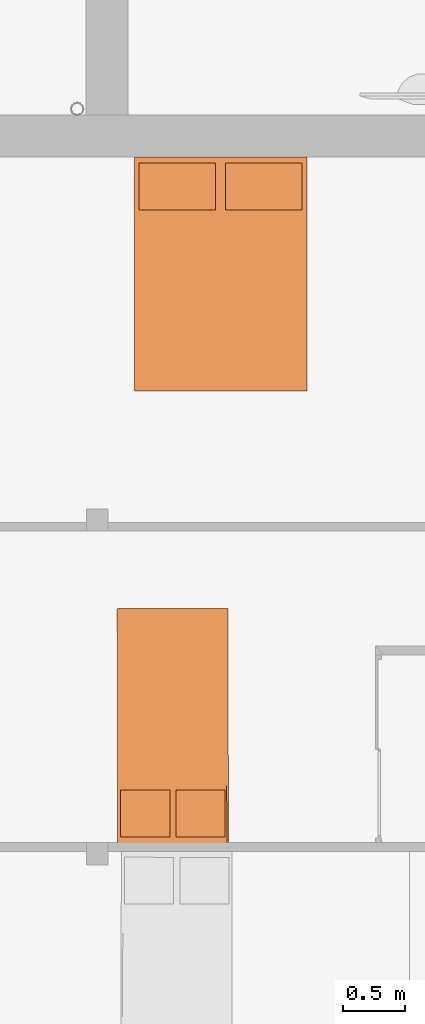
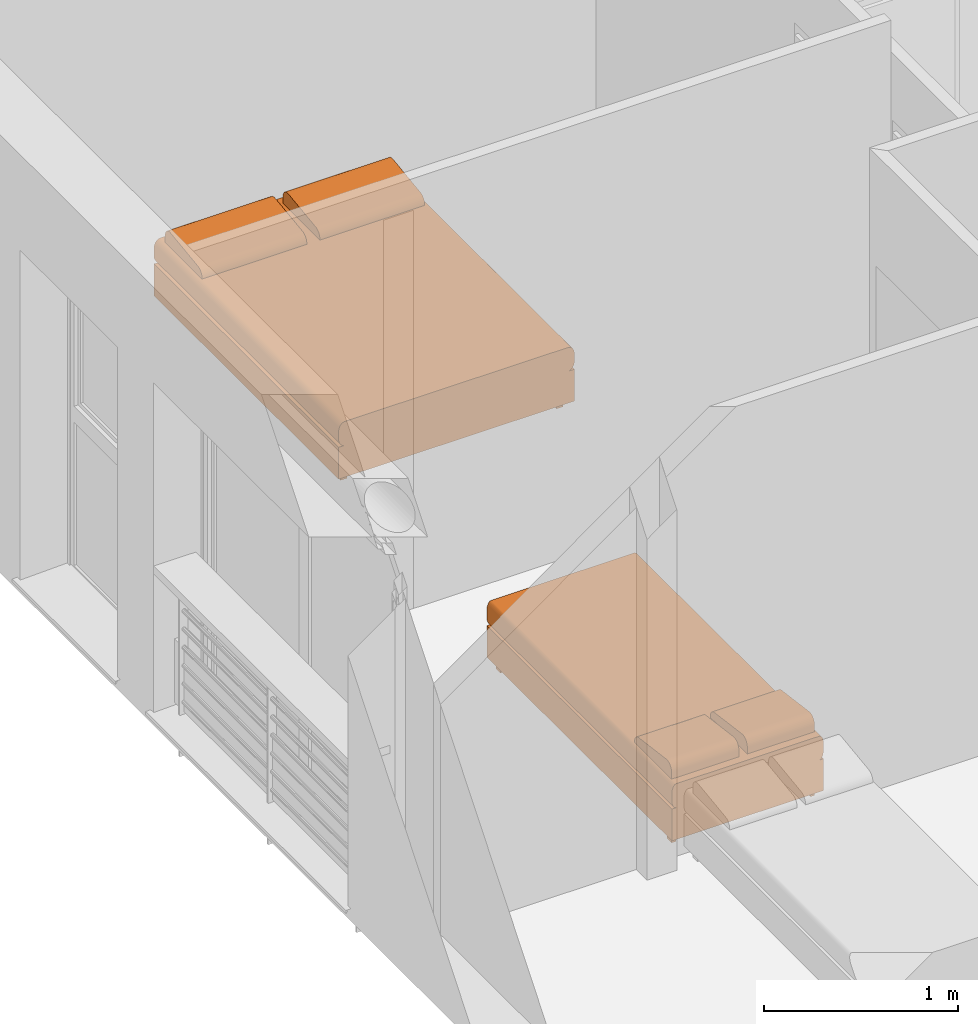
# One storey, part 141 of 164: 2 proxies.
"""IFC2X3 building model written with IfcOpenShell, lengths in millimetres."""

from ifc_helpers import new_model, entity, si_unit, converted_unit, derived_unit, money_unit, direction, frame, origin_with_axes, place, context, subcontext, project, spatial, open_shell, faceted_brep, surface_model, source, transform, mapped, type_object, element, save


model = new_model("IFC2X3")

# Units and contexts
model_context = context("Model", 3, precision=0.01, world=origin_with_axes(), true_north=direction((0.0, 1.0)))
body_context = subcontext(model_context, "Body", "Model", "MODEL_VIEW")
ifc_project = project(units=[si_unit("LENGTHUNIT", "METRE", prefix="MILLI"), si_unit("AREAUNIT", "SQUARE_METRE"), si_unit("VOLUMEUNIT", "CUBIC_METRE"), converted_unit("PLANEANGLEUNIT", "DEGREE", entity("IfcPlaneAngleMeasure", 0.0174532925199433), si_unit("PLANEANGLEUNIT", "RADIAN"), dimensions=[0, 0, 0, 0, 0, 0, 0]), money_unit("USD"), converted_unit("TIMEUNIT", "Year", entity("IfcTimeMeasure", 31557600.0), si_unit("TIMEUNIT", "SECOND"), dimensions=[0, 0, 1, 0, 0, 0, 0]), si_unit("MASSUNIT", "GRAM", prefix="KILO"), si_unit("THERMODYNAMICTEMPERATUREUNIT", "DEGREE_CELSIUS"), si_unit("LUMINOUSINTENSITYUNIT", "LUMEN"), si_unit("ENERGYUNIT", "JOULE", prefix="MEGA"), derived_unit("THERMALCONDUCTANCEUNIT", [(si_unit("POWERUNIT", "WATT"), 1), (si_unit("LENGTHUNIT", "METRE"), -1), (si_unit("THERMODYNAMICTEMPERATUREUNIT", "KELVIN"), -1)]), derived_unit("SPECIFICHEATCAPACITYUNIT", [(si_unit("ENERGYUNIT", "JOULE"), 1), (si_unit("MASSUNIT", "GRAM", prefix="KILO"), -1), (si_unit("THERMODYNAMICTEMPERATUREUNIT", "KELVIN"), -1)]), derived_unit("MASSDENSITYUNIT", [(si_unit("MASSUNIT", "GRAM", prefix="KILO"), 1), (si_unit("VOLUMEUNIT", "CUBIC_METRE"), -1)])], contexts=[model_context])

# Site, building, storey
site_placement = place(None, origin_with_axes())
site = spatial("IfcSite", under=ifc_project, at=site_placement, Name="Site", CompositionType="ELEMENT")
building_placement = place(site_placement, origin_with_axes())
building = spatial("IfcBuilding", under=site, at=building_placement, Name="Bâtiment", CompositionType="ELEMENT")
storey_placement = place(building_placement, frame((0.0, 0.0, 5750.0), z_axis=(0.0, 0.0, 1.0), x_axis=(1.0, 0.0, 0.0)))
storey = spatial("IfcBuildingStorey", under=building, at=storey_placement, Name="Etage1", CompositionType="ELEMENT", Elevation=5750.0)

# Proxies
building_element_proxy_type = type_object("IfcBuildingElementProxyType", PredefinedType="NOTDEFINED")
shared_shape_1 = source(origin_with_axes(), body_context, "Body", "SurfaceModel", [
    faceted_brep([(-622.2222222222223, -95.0, 0.0), (-661.1111111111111, -95.0, 0.0), (-661.1111111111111, -47.5, 0.0), (-622.2222222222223, -47.5, 0.0), (-622.2222222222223, -95.0, 50.0), (-661.1111111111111, -95.0, 50.0), (-661.1111111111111, -47.5, 50.0), (-622.2222222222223, -47.5, 50.0)], [[[0, 1, 2, 3]], [[1, 0, 4, 5]], [[2, 1, 5, 6]], [[3, 2, 6, 7]], [[0, 3, 7, 4]], [[5, 4, 7, 6]]]),
    faceted_brep([(-622.2222222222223, -1852.5, 0.0), (-661.1111111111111, -1852.5, 0.0), (-661.1111111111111, -1805.0, 0.0), (-622.2222222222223, -1805.0, 0.0), (-622.2222222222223, -1852.5, 50.0), (-661.1111111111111, -1852.5, 50.0), (-661.1111111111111, -1805.0, 50.0), (-622.2222222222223, -1805.0, 50.0)], [[[0, 1, 2, 3]], [[1, 0, 4, 5]], [[2, 1, 5, 6]], [[3, 2, 6, 7]], [[0, 3, 7, 4]], [[5, 4, 7, 6]]]),
    faceted_brep([(661.111111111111, -1852.5, 0.0), (622.2222222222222, -1852.5, 0.0), (622.2222222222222, -1805.0, 0.0), (661.111111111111, -1805.0, 0.0), (661.111111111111, -1852.5, 50.0), (622.2222222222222, -1852.5, 50.0), (622.2222222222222, -1805.0, 50.0), (661.111111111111, -1805.0, 50.0)], [[[0, 1, 2, 3]], [[1, 0, 4, 5]], [[2, 1, 5, 6]], [[3, 2, 6, 7]], [[0, 3, 7, 4]], [[5, 4, 7, 6]]]),
    faceted_brep([(661.111111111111, -94.99999999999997, 0.0), (622.2222222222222, -94.99999999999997, 0.0), (622.2222222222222, -47.49999999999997, 0.0), (661.111111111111, -47.49999999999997, 0.0), (661.111111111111, -94.99999999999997, 50.0), (622.2222222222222, -94.99999999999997, 50.0), (622.2222222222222, -47.49999999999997, 50.0), (661.111111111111, -47.49999999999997, 50.0)], [[[0, 1, 2, 3]], [[1, 0, 4, 5]], [[2, 1, 5, 6]], [[3, 2, 6, 7]], [[0, 3, 7, 4]], [[5, 4, 7, 6]]]),
    faceted_brep([(-700.0, 0.0, 50.0), (700.0, 0.0, 50.0), (700.0, -1900.0, 50.00000000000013), (-700.0, -1900.0, 50.00000000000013), (-700.0, 0.0, 250.0), (700.0, 0.0, 250.0), (700.0, -1900.0, 250.0000000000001), (-700.0, -1900.0, 250.0000000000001)], [[[0, 1, 2, 3]], [[0, 4, 5, 1]], [[1, 5, 6, 2]], [[3, 2, 6, 7]], [[4, 0, 3, 7]], [[5, 4, 7, 6]]]),
    surface_model("IfcShellBasedSurfaceModel", [(661.1111111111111, 0.0, 250.0), (667.8640957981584, 0.0, 250.7596123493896), (667.8640957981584, -1900.0, 250.7596123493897), (661.1111111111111, -1900.0, 250.0000000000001), (-661.1111111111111, 0.0, 250.0), (-667.8640957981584, 0.0, 250.7596123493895), (-674.4118944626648, 0.0, 253.0153689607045), (-680.5555555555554, 0.0, 256.698729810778), (-686.1084070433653, 0.0, 261.6977778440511), (-690.9017283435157, 0.0, 267.860619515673), (-694.7898768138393, 0.0, 275.0), (-697.654713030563, 0.0, 282.8989928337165), (-699.4091903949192, 0.0, 291.3175911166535), (-700.0, 0.0, 300.0000000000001), (-700.0000000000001, 0.0, 350.0), (-699.4091903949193, 0.0, 358.6824088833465), (-697.654713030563, 0.0, 367.1010071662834), (-694.7898768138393, 0.0, 375.0), (-690.9017283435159, 0.0, 382.139380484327), (-686.1084070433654, 0.0, 388.3022221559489), (-680.5555555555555, 0.0, 393.301270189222), (-674.4118944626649, 0.0, 396.9846310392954), (-667.8640957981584, 0.0, 399.2403876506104), (-661.1111111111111, 0.0, 400.0), (661.111111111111, 0.0, 400.0000000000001), (667.8640957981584, 0.0, 399.2403876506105), (674.4118944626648, 0.0, 396.9846310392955), (680.5555555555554, 0.0, 393.301270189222), (686.1084070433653, 0.0, 388.3022221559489), (690.9017283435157, 0.0, 382.139380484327), (694.7898768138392, 0.0, 375.0000000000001), (697.654713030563, 0.0, 367.1010071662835), (699.4091903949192, 0.0, 358.6824088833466), (700.0, 0.0, 350.0000000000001), (700.0, 0.0, 300.0000000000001), (699.4091903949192, 0.0, 291.3175911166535), (697.654713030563, 0.0, 282.8989928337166), (694.7898768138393, 0.0, 275.0), (690.9017283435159, 0.0, 267.8606195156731), (686.1084070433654, 0.0, 261.6977778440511), (680.5555555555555, 0.0, 256.698729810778), (674.4118944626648, 0.0, 253.0153689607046), (674.4118944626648, -1900.0, 253.0153689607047), (-661.1111111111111, -1900.0, 250.0000000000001), (680.5555555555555, -1900.0, 256.6987298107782), (686.1084070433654, -1900.0, 261.6977778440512), (690.9017283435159, -1900.0, 267.8606195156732), (694.7898768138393, -1900.0, 275.0000000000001), (697.654713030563, -1900.0, 282.8989928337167), (699.4091903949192, -1900.0, 291.3175911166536), (700.0, -1900.0, 300.0000000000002), (700.0, -1900.0, 350.0000000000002), (699.4091903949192, -1900.0, 358.6824088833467), (697.654713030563, -1900.0, 367.1010071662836), (694.7898768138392, -1900.0, 375.0000000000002), (690.9017283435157, -1900.0, 382.1393804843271), (686.1084070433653, -1900.0, 388.302222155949), (680.5555555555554, -1900.0, 393.3012701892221), (674.4118944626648, -1900.0, 396.9846310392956), (667.8640957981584, -1900.0, 399.2403876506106), (661.111111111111, -1900.0, 400.0000000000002), (-661.1111111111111, -1900.0, 400.0000000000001), (-667.8640957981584, -1900.0, 399.2403876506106), (-674.4118944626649, -1900.0, 396.9846310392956), (-680.5555555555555, -1900.0, 393.3012701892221), (-686.1084070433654, -1900.0, 388.302222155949), (-690.9017283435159, -1900.0, 382.1393804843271), (-694.7898768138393, -1900.0, 375.0000000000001), (-697.654713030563, -1900.0, 367.1010071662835), (-699.4091903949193, -1900.0, 358.6824088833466), (-700.0000000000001, -1900.0, 350.0000000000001), (-700.0, -1900.0, 300.0000000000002), (-699.4091903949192, -1900.0, 291.3175911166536), (-697.654713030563, -1900.0, 282.8989928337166), (-694.7898768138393, -1900.0, 275.0000000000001), (-690.9017283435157, -1900.0, 267.8606195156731), (-686.1084070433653, -1900.0, 261.6977778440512), (-680.5555555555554, -1900.0, 256.6987298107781), (-674.4118944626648, -1900.0, 253.0153689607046), (-667.8640957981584, -1900.0, 250.7596123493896)], [open_shell([[[0, 1, 2, 3]], [[4, 5, 6, 7, 8, 9, 10, 11, 12, 13, 14, 15, 16, 17, 18, 19, 20, 21, 22, 23, 24, 25, 26, 27, 28, 29, 30, 31, 32, 33, 34, 35, 36, 37, 38, 39, 40, 41, 1, 0]], [[1, 41, 42, 2]], [[43, 3, 2, 42, 44, 45, 46, 47, 48, 49, 50, 51, 52, 53, 54, 55, 56, 57, 58, 59, 60, 61, 62, 63, 64, 65, 66, 67, 68, 69, 70, 71, 72, 73, 74, 75, 76, 77, 78, 79]], [[5, 4, 43, 79]], [[6, 5, 79, 78]], [[7, 6, 78, 77]], [[8, 7, 77, 76]], [[9, 8, 76, 75]], [[10, 9, 75, 74]], [[11, 10, 74, 73]], [[12, 11, 73, 72]], [[13, 12, 72, 71]], [[14, 13, 71, 70]], [[15, 14, 70, 69]], [[16, 15, 69, 68]], [[17, 16, 68, 67]], [[18, 17, 67, 66]], [[19, 18, 66, 65]], [[20, 19, 65, 64]], [[21, 20, 64, 63]], [[22, 21, 63, 62]], [[23, 22, 62, 61]], [[24, 23, 61, 60]], [[25, 24, 60, 59]], [[26, 25, 59, 58]], [[27, 26, 58, 57]], [[28, 27, 57, 56]], [[29, 28, 56, 55]], [[30, 29, 55, 54]], [[31, 30, 54, 53]], [[32, 31, 53, 52]], [[33, 32, 52, 51]], [[34, 33, 51, 50]], [[35, 34, 50, 49]], [[36, 35, 49, 48]], [[37, 36, 48, 47]], [[38, 37, 47, 46]], [[39, 38, 46, 45]], [[40, 39, 45, 44]], [[41, 40, 44, 42]]])]),
    faceted_brep([(38.88888888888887, -47.49999999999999, 400.0), (38.88888888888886, -47.49999999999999, 443.4), (661.1111111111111, -47.50000000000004, 443.4000000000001), (661.1111111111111, -47.50000000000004, 400.0000000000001), (38.88888888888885, -427.5, 400.0), (38.88888888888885, -427.6960812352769, 408.695442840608), (38.88888888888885, -426.4675711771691, 417.2966661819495), (38.88888888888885, -423.8511300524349, 425.5469991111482), (38.88888888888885, -419.9248356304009, 433.2002417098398), (38.88888888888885, -414.8058532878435, 440.0280119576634), (38.88888888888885, -408.6469396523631, 445.826560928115), (38.88888888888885, -401.6318841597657, 450.4228529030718), (38.88888888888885, -393.9700245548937, 453.6797289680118), (38.88888888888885, -385.89, 455.5), (38.88888888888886, -100.89, 493.0000000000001), (38.88888888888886, -92.85488048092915, 493.3370808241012), (38.88888888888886, -84.88093291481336, 492.2422169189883), (38.88888888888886, -77.19681007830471, 489.7468034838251), (38.88888888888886, -70.02285403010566, 485.922396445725), (38.88888888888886, -63.56477780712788, 480.878660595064), (38.88888888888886, -58.00776660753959, 474.7602249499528), (38.88888888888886, -53.51116760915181, 467.7425355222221), (38.88888888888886, -50.20392069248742, 460.0268244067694), (38.88888888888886, -48.18086109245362, 451.834339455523), (661.1111111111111, -48.18086109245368, 451.8343394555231), (661.1111111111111, -50.20392069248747, 460.0268244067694), (661.1111111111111, -53.51116760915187, 467.7425355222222), (661.1111111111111, -58.00776660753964, 474.7602249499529), (661.1111111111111, -63.56477780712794, 480.878660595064), (661.1111111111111, -70.02285403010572, 485.922396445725), (661.1111111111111, -77.19681007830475, 489.7468034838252), (661.1111111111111, -84.88093291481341, 492.2422169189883), (661.1111111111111, -92.85488048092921, 493.3370808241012), (661.1111111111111, -100.8900000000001, 493.0000000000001), (661.1111111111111, -385.89, 455.5000000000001), (661.1111111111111, -393.9700245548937, 453.6797289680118), (661.1111111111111, -401.6318841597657, 450.4228529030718), (661.1111111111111, -408.6469396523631, 445.826560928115), (661.1111111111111, -414.8058532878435, 440.0280119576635), (661.1111111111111, -419.924835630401, 433.2002417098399), (661.1111111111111, -423.8511300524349, 425.5469991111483), (661.1111111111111, -426.4675711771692, 417.2966661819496), (661.1111111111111, -427.6960812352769, 408.6954428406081), (661.1111111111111, -427.5, 400.0000000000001)], [[[0, 1, 2, 3]], [[0, 4, 5, 6, 7, 8, 9, 10, 11, 12, 13, 14, 15, 16, 17, 18, 19, 20, 21, 22, 23, 1]], [[1, 23, 24, 2]], [[3, 2, 24, 25, 26, 27, 28, 29, 30, 31, 32, 33, 34, 35, 36, 37, 38, 39, 40, 41, 42, 43]], [[4, 0, 3, 43]], [[5, 4, 43, 42]], [[6, 5, 42, 41]], [[7, 6, 41, 40]], [[8, 7, 40, 39]], [[9, 8, 39, 38]], [[10, 9, 38, 37]], [[11, 10, 37, 36]], [[12, 11, 36, 35]], [[13, 12, 35, 34]], [[14, 13, 34, 33]], [[15, 14, 33, 32]], [[16, 15, 32, 31]], [[17, 16, 31, 30]], [[18, 17, 30, 29]], [[19, 18, 29, 28]], [[20, 19, 28, 27]], [[21, 20, 27, 26]], [[22, 21, 26, 25]], [[23, 22, 25, 24]]]),
    faceted_brep([(-661.1111111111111, -47.49999999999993, 399.9999999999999), (-661.1111111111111, -47.49999999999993, 443.4), (-38.88888888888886, -47.49999999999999, 443.4), (-38.88888888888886, -47.49999999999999, 400.0), (-661.1111111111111, -427.4999999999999, 399.9999999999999), (-661.1111111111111, -427.6960812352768, 408.6954428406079), (-661.1111111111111, -426.4675711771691, 417.2966661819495), (-661.1111111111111, -423.8511300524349, 425.5469991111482), (-661.1111111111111, -419.9248356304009, 433.2002417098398), (-661.1111111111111, -414.8058532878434, 440.0280119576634), (-661.1111111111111, -408.646939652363, 445.8265609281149), (-661.1111111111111, -401.6318841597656, 450.4228529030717), (-661.1111111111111, -393.9700245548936, 453.6797289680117), (-661.1111111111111, -385.8899999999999, 455.4999999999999), (-661.1111111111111, -100.89, 493.0), (-661.1111111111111, -92.8548804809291, 493.3370808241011), (-661.1111111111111, -84.8809329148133, 492.2422169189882), (-661.1111111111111, -77.19681007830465, 489.7468034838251), (-661.1111111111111, -70.0228540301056, 485.9223964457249), (-661.1111111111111, -63.56477780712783, 480.8786605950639), (-661.1111111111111, -58.00776660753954, 474.7602249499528), (-661.1111111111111, -53.51116760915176, 467.7425355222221), (-661.1111111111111, -50.20392069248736, 460.0268244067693), (-661.1111111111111, -48.18086109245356, 451.834339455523), (-38.88888888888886, -48.18086109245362, 451.834339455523), (-38.88888888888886, -50.20392069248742, 460.0268244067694), (-38.88888888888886, -53.51116760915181, 467.7425355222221), (-38.88888888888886, -58.00776660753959, 474.7602249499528), (-38.88888888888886, -63.56477780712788, 480.878660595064), (-38.88888888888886, -70.02285403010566, 485.922396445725), (-38.88888888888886, -77.19681007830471, 489.7468034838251), (-38.88888888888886, -84.88093291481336, 492.2422169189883), (-38.88888888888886, -92.85488048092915, 493.3370808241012), (-38.88888888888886, -100.89, 493.0000000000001), (-38.88888888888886, -385.8899999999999, 455.5), (-38.88888888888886, -393.9700245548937, 453.6797289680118), (-38.88888888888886, -401.6318841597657, 450.4228529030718), (-38.88888888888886, -408.6469396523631, 445.826560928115), (-38.88888888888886, -414.8058532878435, 440.0280119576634), (-38.88888888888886, -419.9248356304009, 433.2002417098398), (-38.88888888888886, -423.8511300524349, 425.5469991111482), (-38.88888888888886, -426.4675711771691, 417.2966661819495), (-38.88888888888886, -427.6960812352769, 408.695442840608), (-38.88888888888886, -427.4999999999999, 400.0)], [[[0, 1, 2, 3]], [[0, 4, 5, 6, 7, 8, 9, 10, 11, 12, 13, 14, 15, 16, 17, 18, 19, 20, 21, 22, 23, 1]], [[1, 23, 24, 2]], [[3, 2, 24, 25, 26, 27, 28, 29, 30, 31, 32, 33, 34, 35, 36, 37, 38, 39, 40, 41, 42, 43]], [[4, 0, 3, 43]], [[5, 4, 43, 42]], [[6, 5, 42, 41]], [[7, 6, 41, 40]], [[8, 7, 40, 39]], [[9, 8, 39, 38]], [[10, 9, 38, 37]], [[11, 10, 37, 36]], [[12, 11, 36, 35]], [[13, 12, 35, 34]], [[14, 13, 34, 33]], [[15, 14, 33, 32]], [[16, 15, 32, 31]], [[17, 16, 31, 30]], [[18, 17, 30, 29]], [[19, 18, 29, 28]], [[20, 19, 28, 27]], [[21, 20, 27, 26]], [[22, 21, 26, 25]], [[23, 22, 25, 24]]]),
])
proxy_1_placement = place(storey_placement, frame((2219225.881810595, -644356.4780863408, 0.0), z_axis=(0.0, 0.0, 1.0), x_axis=(0.9999999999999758, -2.201927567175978e-07, 0.0)))
element("IfcBuildingElementProxy", 1, at=proxy_1_placement, inside=storey, type_object=building_element_proxy_type, Name="Obj.-003", context=body_context, shape_type="MappedRepresentation", body=[
    mapped(shared_shape_1, transform((0.0, 0.0, 0.0))),
])
shared_shape_2 = source(origin_with_axes(), body_context, "Body", "SurfaceModel", [
    faceted_brep([(-400.0, -95.0, 0.0), (-425.0000000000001, -95.0, 0.0), (-425.0000000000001, -47.5, 0.0), (-400.0, -47.5, 0.0), (-400.0, -95.0, 50.0), (-425.0000000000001, -95.0, 50.0), (-425.0000000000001, -47.5, 50.0), (-400.0, -47.5, 50.0)], [[[0, 1, 2, 3]], [[1, 0, 4, 5]], [[2, 1, 5, 6]], [[3, 2, 6, 7]], [[0, 3, 7, 4]], [[5, 4, 7, 6]]]),
    faceted_brep([(-400.0, -1852.5, 0.0), (-425.0000000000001, -1852.5, 0.0), (-425.0000000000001, -1805.0, 0.0), (-400.0, -1805.0, 0.0), (-400.0, -1852.5, 50.0), (-425.0000000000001, -1852.5, 50.0), (-425.0000000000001, -1805.0, 50.0), (-400.0, -1805.0, 50.0)], [[[0, 1, 2, 3]], [[1, 0, 4, 5]], [[2, 1, 5, 6]], [[3, 2, 6, 7]], [[0, 3, 7, 4]], [[5, 4, 7, 6]]]),
    faceted_brep([(425.0000000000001, -1852.5, 0.0), (400.0, -1852.5, 0.0), (400.0, -1805.0, 0.0), (425.0000000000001, -1805.0, 0.0), (425.0000000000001, -1852.5, 50.0), (400.0, -1852.5, 50.0), (400.0, -1805.0, 50.0), (425.0000000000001, -1805.0, 50.0)], [[[0, 1, 2, 3]], [[1, 0, 4, 5]], [[2, 1, 5, 6]], [[3, 2, 6, 7]], [[0, 3, 7, 4]], [[5, 4, 7, 6]]]),
    faceted_brep([(425.0000000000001, -94.99999999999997, 0.0), (400.0, -94.99999999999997, 0.0), (400.0, -47.49999999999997, 0.0), (425.0000000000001, -47.49999999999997, 0.0), (425.0000000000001, -94.99999999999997, 50.0), (400.0, -94.99999999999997, 50.0), (400.0, -47.49999999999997, 50.0), (425.0000000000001, -47.49999999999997, 50.0)], [[[0, 1, 2, 3]], [[1, 0, 4, 5]], [[2, 1, 5, 6]], [[3, 2, 6, 7]], [[0, 3, 7, 4]], [[5, 4, 7, 6]]]),
    faceted_brep([(-450.0, 0.0, 50.0), (450.0, 0.0, 50.0), (450.0, -1900.0, 50.00000000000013), (-450.0, -1900.0, 50.00000000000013), (-450.0, 0.0, 250.0), (450.0, 0.0, 250.0), (450.0, -1900.0, 250.0000000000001), (-450.0, -1900.0, 250.0000000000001)], [[[0, 1, 2, 3]], [[0, 4, 5, 1]], [[1, 5, 6, 2]], [[3, 2, 6, 7]], [[4, 0, 3, 7]], [[5, 4, 7, 6]]]),
    surface_model("IfcShellBasedSurfaceModel", [(425.0000000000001, 0.0, 250.0), (429.3412044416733, 0.0, 250.7596123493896), (429.3412044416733, -1900.0, 250.7596123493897), (425.0000000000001, -1900.0, 250.0000000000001), (-425.0000000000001, 0.0, 250.0), (-429.3412044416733, 0.0, 250.7596123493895), (-433.5505035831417, 0.0, 253.0153689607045), (-437.5, 0.0, 256.698729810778), (-441.0696902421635, 0.0, 261.6977778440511), (-444.1511110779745, 0.0, 267.860619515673), (-446.650635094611, 0.0, 275.0), (-448.4923155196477, 0.0, 282.8989928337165), (-449.6201938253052, 0.0, 291.3175911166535), (-450.0, 0.0, 300.0000000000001), (-450.0000000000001, 0.0, 350.0), (-449.6201938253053, 0.0, 358.6824088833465), (-448.4923155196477, 0.0, 367.1010071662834), (-446.650635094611, 0.0, 375.0), (-444.1511110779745, 0.0, 382.139380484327), (-441.0696902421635, 0.0, 388.3022221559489), (-437.5000000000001, 0.0, 393.301270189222), (-433.5505035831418, 0.0, 396.9846310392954), (-429.3412044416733, 0.0, 399.2403876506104), (-425.0000000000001, 0.0, 400.0), (425.0, 0.0, 400.0000000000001), (429.3412044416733, 0.0, 399.2403876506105), (433.5505035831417, 0.0, 396.9846310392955), (437.5, 0.0, 393.301270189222), (441.0696902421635, 0.0, 388.3022221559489), (444.1511110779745, 0.0, 382.139380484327), (446.6506350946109, 0.0, 375.0000000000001), (448.4923155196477, 0.0, 367.1010071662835), (449.6201938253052, 0.0, 358.6824088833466), (450.0, 0.0, 350.0000000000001), (450.0, 0.0, 300.0000000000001), (449.6201938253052, 0.0, 291.3175911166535), (448.4923155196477, 0.0, 282.8989928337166), (446.650635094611, 0.0, 275.0), (444.1511110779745, 0.0, 267.8606195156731), (441.0696902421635, 0.0, 261.6977778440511), (437.5000000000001, 0.0, 256.698729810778), (433.5505035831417, 0.0, 253.0153689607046), (433.5505035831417, -1900.0, 253.0153689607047), (-425.0000000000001, -1900.0, 250.0000000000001), (437.5000000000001, -1900.0, 256.6987298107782), (441.0696902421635, -1900.0, 261.6977778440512), (444.1511110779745, -1900.0, 267.8606195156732), (446.650635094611, -1900.0, 275.0000000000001), (448.4923155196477, -1900.0, 282.8989928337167), (449.6201938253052, -1900.0, 291.3175911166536), (450.0, -1900.0, 300.0000000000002), (450.0, -1900.0, 350.0000000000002), (449.6201938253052, -1900.0, 358.6824088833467), (448.4923155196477, -1900.0, 367.1010071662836), (446.6506350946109, -1900.0, 375.0000000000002), (444.1511110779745, -1900.0, 382.1393804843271), (441.0696902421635, -1900.0, 388.302222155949), (437.5, -1900.0, 393.3012701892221), (433.5505035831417, -1900.0, 396.9846310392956), (429.3412044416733, -1900.0, 399.2403876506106), (425.0, -1900.0, 400.0000000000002), (-425.0000000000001, -1900.0, 400.0000000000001), (-429.3412044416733, -1900.0, 399.2403876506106), (-433.5505035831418, -1900.0, 396.9846310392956), (-437.5000000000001, -1900.0, 393.3012701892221), (-441.0696902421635, -1900.0, 388.302222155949), (-444.1511110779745, -1900.0, 382.1393804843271), (-446.650635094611, -1900.0, 375.0000000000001), (-448.4923155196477, -1900.0, 367.1010071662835), (-449.6201938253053, -1900.0, 358.6824088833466), (-450.0000000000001, -1900.0, 350.0000000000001), (-450.0, -1900.0, 300.0000000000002), (-449.6201938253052, -1900.0, 291.3175911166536), (-448.4923155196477, -1900.0, 282.8989928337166), (-446.650635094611, -1900.0, 275.0000000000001), (-444.1511110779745, -1900.0, 267.8606195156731), (-441.0696902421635, -1900.0, 261.6977778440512), (-437.5, -1900.0, 256.6987298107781), (-433.5505035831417, -1900.0, 253.0153689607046), (-429.3412044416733, -1900.0, 250.7596123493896)], [open_shell([[[0, 1, 2, 3]], [[4, 5, 6, 7, 8, 9, 10, 11, 12, 13, 14, 15, 16, 17, 18, 19, 20, 21, 22, 23, 24, 25, 26, 27, 28, 29, 30, 31, 32, 33, 34, 35, 36, 37, 38, 39, 40, 41, 1, 0]], [[1, 41, 42, 2]], [[43, 3, 2, 42, 44, 45, 46, 47, 48, 49, 50, 51, 52, 53, 54, 55, 56, 57, 58, 59, 60, 61, 62, 63, 64, 65, 66, 67, 68, 69, 70, 71, 72, 73, 74, 75, 76, 77, 78, 79]], [[5, 4, 43, 79]], [[6, 5, 79, 78]], [[7, 6, 78, 77]], [[8, 7, 77, 76]], [[9, 8, 76, 75]], [[10, 9, 75, 74]], [[11, 10, 74, 73]], [[12, 11, 73, 72]], [[13, 12, 72, 71]], [[14, 13, 71, 70]], [[15, 14, 70, 69]], [[16, 15, 69, 68]], [[17, 16, 68, 67]], [[18, 17, 67, 66]], [[19, 18, 66, 65]], [[20, 19, 65, 64]], [[21, 20, 64, 63]], [[22, 21, 63, 62]], [[23, 22, 62, 61]], [[24, 23, 61, 60]], [[25, 24, 60, 59]], [[26, 25, 59, 58]], [[27, 26, 58, 57]], [[28, 27, 57, 56]], [[29, 28, 56, 55]], [[30, 29, 55, 54]], [[31, 30, 54, 53]], [[32, 31, 53, 52]], [[33, 32, 52, 51]], [[34, 33, 51, 50]], [[35, 34, 50, 49]], [[36, 35, 49, 48]], [[37, 36, 48, 47]], [[38, 37, 47, 46]], [[39, 38, 46, 45]], [[40, 39, 45, 44]], [[41, 40, 44, 42]]])]),
    faceted_brep([(24.99999999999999, -47.49999999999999, 400.0), (24.99999999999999, -47.49999999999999, 443.4), (425.0, -47.50000000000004, 443.4000000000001), (425.0, -47.50000000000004, 400.0000000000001), (24.99999999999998, -427.5, 400.0), (24.99999999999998, -427.6960812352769, 408.695442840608), (24.99999999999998, -426.4675711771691, 417.2966661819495), (24.99999999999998, -423.8511300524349, 425.5469991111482), (24.99999999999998, -419.9248356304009, 433.2002417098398), (24.99999999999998, -414.8058532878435, 440.0280119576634), (24.99999999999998, -408.6469396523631, 445.826560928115), (24.99999999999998, -401.6318841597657, 450.4228529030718), (24.99999999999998, -393.9700245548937, 453.6797289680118), (24.99999999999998, -385.89, 455.5), (24.99999999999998, -100.89, 493.0000000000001), (24.99999999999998, -92.85488048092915, 493.3370808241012), (24.99999999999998, -84.88093291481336, 492.2422169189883), (24.99999999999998, -77.19681007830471, 489.7468034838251), (24.99999999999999, -70.02285403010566, 485.922396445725), (24.99999999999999, -63.56477780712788, 480.878660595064), (24.99999999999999, -58.00776660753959, 474.7602249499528), (24.99999999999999, -53.51116760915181, 467.7425355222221), (24.99999999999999, -50.20392069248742, 460.0268244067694), (24.99999999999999, -48.18086109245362, 451.834339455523), (425.0, -48.18086109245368, 451.8343394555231), (425.0, -50.20392069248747, 460.0268244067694), (425.0, -53.51116760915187, 467.7425355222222), (425.0, -58.00776660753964, 474.7602249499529), (425.0, -63.56477780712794, 480.878660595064), (425.0, -70.02285403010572, 485.922396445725), (425.0, -77.19681007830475, 489.7468034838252), (425.0, -84.88093291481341, 492.2422169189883), (425.0, -92.85488048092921, 493.3370808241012), (425.0, -100.8900000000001, 493.0000000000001), (425.0, -385.89, 455.5000000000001), (425.0, -393.9700245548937, 453.6797289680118), (425.0, -401.6318841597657, 450.4228529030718), (425.0, -408.6469396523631, 445.826560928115), (425.0, -414.8058532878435, 440.0280119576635), (425.0, -419.924835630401, 433.2002417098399), (425.0, -423.8511300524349, 425.5469991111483), (425.0, -426.4675711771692, 417.2966661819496), (425.0, -427.6960812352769, 408.6954428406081), (425.0, -427.5, 400.0000000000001)], [[[0, 1, 2, 3]], [[0, 4, 5, 6, 7, 8, 9, 10, 11, 12, 13, 14, 15, 16, 17, 18, 19, 20, 21, 22, 23, 1]], [[1, 23, 24, 2]], [[3, 2, 24, 25, 26, 27, 28, 29, 30, 31, 32, 33, 34, 35, 36, 37, 38, 39, 40, 41, 42, 43]], [[4, 0, 3, 43]], [[5, 4, 43, 42]], [[6, 5, 42, 41]], [[7, 6, 41, 40]], [[8, 7, 40, 39]], [[9, 8, 39, 38]], [[10, 9, 38, 37]], [[11, 10, 37, 36]], [[12, 11, 36, 35]], [[13, 12, 35, 34]], [[14, 13, 34, 33]], [[15, 14, 33, 32]], [[16, 15, 32, 31]], [[17, 16, 31, 30]], [[18, 17, 30, 29]], [[19, 18, 29, 28]], [[20, 19, 28, 27]], [[21, 20, 27, 26]], [[22, 21, 26, 25]], [[23, 22, 25, 24]]]),
    faceted_brep([(-425.0000000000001, -47.49999999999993, 399.9999999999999), (-425.0000000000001, -47.49999999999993, 443.4), (-25.00000000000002, -47.49999999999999, 443.4), (-25.00000000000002, -47.49999999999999, 400.0), (-425.0000000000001, -427.4999999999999, 399.9999999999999), (-425.0000000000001, -427.6960812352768, 408.6954428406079), (-425.0000000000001, -426.4675711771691, 417.2966661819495), (-425.0000000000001, -423.8511300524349, 425.5469991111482), (-425.0000000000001, -419.9248356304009, 433.2002417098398), (-425.0000000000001, -414.8058532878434, 440.0280119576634), (-425.0000000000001, -408.646939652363, 445.8265609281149), (-425.0000000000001, -401.6318841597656, 450.4228529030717), (-425.0000000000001, -393.9700245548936, 453.6797289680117), (-425.0000000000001, -385.8899999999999, 455.4999999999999), (-425.0000000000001, -100.89, 493.0), (-425.0000000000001, -92.8548804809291, 493.3370808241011), (-425.0000000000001, -84.8809329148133, 492.2422169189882), (-425.0000000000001, -77.19681007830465, 489.7468034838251), (-425.0000000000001, -70.0228540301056, 485.9223964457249), (-425.0000000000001, -63.56477780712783, 480.8786605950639), (-425.0000000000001, -58.00776660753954, 474.7602249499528), (-425.0000000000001, -53.51116760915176, 467.7425355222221), (-425.0000000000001, -50.20392069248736, 460.0268244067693), (-425.0000000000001, -48.18086109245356, 451.834339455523), (-25.00000000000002, -48.18086109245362, 451.834339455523), (-25.00000000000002, -50.20392069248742, 460.0268244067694), (-25.00000000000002, -53.51116760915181, 467.7425355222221), (-25.00000000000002, -58.00776660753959, 474.7602249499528), (-25.00000000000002, -63.56477780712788, 480.878660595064), (-25.00000000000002, -70.02285403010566, 485.922396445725), (-25.00000000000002, -77.19681007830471, 489.7468034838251), (-25.00000000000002, -84.88093291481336, 492.2422169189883), (-25.00000000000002, -92.85488048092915, 493.3370808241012), (-25.00000000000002, -100.89, 493.0000000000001), (-25.00000000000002, -385.8899999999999, 455.5), (-25.00000000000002, -393.9700245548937, 453.6797289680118), (-25.00000000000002, -401.6318841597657, 450.4228529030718), (-25.00000000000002, -408.6469396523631, 445.826560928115), (-25.00000000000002, -414.8058532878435, 440.0280119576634), (-25.00000000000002, -419.9248356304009, 433.2002417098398), (-25.00000000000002, -423.8511300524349, 425.5469991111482), (-25.00000000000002, -426.4675711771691, 417.2966661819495), (-25.00000000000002, -427.6960812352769, 408.695442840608), (-25.00000000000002, -427.4999999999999, 400.0)], [[[0, 1, 2, 3]], [[0, 4, 5, 6, 7, 8, 9, 10, 11, 12, 13, 14, 15, 16, 17, 18, 19, 20, 21, 22, 23, 1]], [[1, 23, 24, 2]], [[3, 2, 24, 25, 26, 27, 28, 29, 30, 31, 32, 33, 34, 35, 36, 37, 38, 39, 40, 41, 42, 43]], [[4, 0, 3, 43]], [[5, 4, 43, 42]], [[6, 5, 42, 41]], [[7, 6, 41, 40]], [[8, 7, 40, 39]], [[9, 8, 39, 38]], [[10, 9, 38, 37]], [[11, 10, 37, 36]], [[12, 11, 36, 35]], [[13, 12, 35, 34]], [[14, 13, 34, 33]], [[15, 14, 33, 32]], [[16, 15, 32, 31]], [[17, 16, 31, 30]], [[18, 17, 30, 29]], [[19, 18, 29, 28]], [[20, 19, 28, 27]], [[21, 20, 27, 26]], [[22, 21, 26, 25]], [[23, 22, 25, 24]]]),
])
proxy_2_placement = place(storey_placement, frame((2218839.233166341, -649921.3084340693, 0.0), z_axis=(0.0, 0.0, 1.0), x_axis=(-0.9999996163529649, -0.0008759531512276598, 0.0)))
element("IfcBuildingElementProxy", 2, at=proxy_2_placement, inside=storey, type_object=building_element_proxy_type, Name="Obj.-003", context=body_context, shape_type="MappedRepresentation", body=[
    mapped(shared_shape_2, transform((0.0, 0.0, 0.0))),
])

save(model, "model.ifc")
